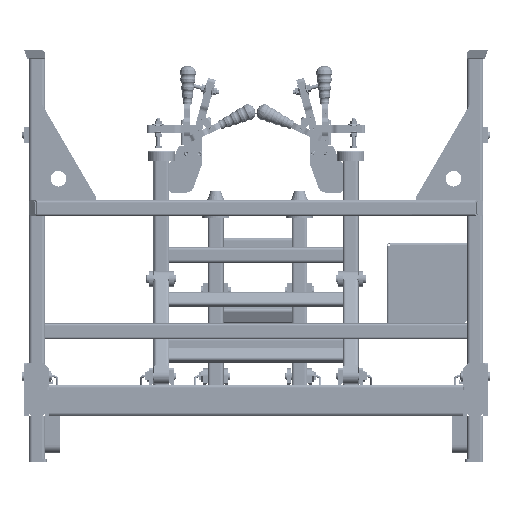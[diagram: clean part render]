
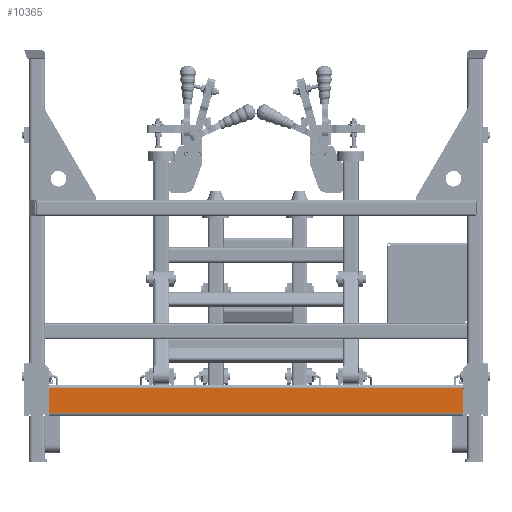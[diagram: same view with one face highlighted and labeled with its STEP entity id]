
A CAD part, front view. The second image highlights one B-rep face of the part: STEP entity #10365.
In plain terms, the highlighted planar face has unit normal (0, -1, 0) as drawn and (-1, 0, 0) by its records, which use the part's own axes.
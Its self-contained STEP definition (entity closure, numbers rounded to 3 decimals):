
#10365 = ADVANCED_FACE( '', ( #20944 ), #20945, .F. );
#20944 = FACE_OUTER_BOUND( '', #35922, .T. );
#20945 = PLANE( '', #35923 );
#35922 = EDGE_LOOP( '', ( #64651, #64652, #64653, #64654 ) );
#35923 = AXIS2_PLACEMENT_3D( '', #64655, #64656, #64657 );
#64651 = ORIENTED_EDGE( '', *, *, #91351, .T. );
#64652 = ORIENTED_EDGE( '', *, *, #86148, .F. );
#64653 = ORIENTED_EDGE( '', *, *, #91045, .F. );
#64654 = ORIENTED_EDGE( '', *, *, #84104, .T. );
#64655 = CARTESIAN_POINT( '', ( -20., 1056., -32. ) );
#64656 = DIRECTION( '', ( 1., 0., 0. ) );
#64657 = DIRECTION( '', ( 0., 0., -1. ) );
#84104 = EDGE_CURVE( '', #102637, #102635, #102638, .T. );
#86148 = EDGE_CURVE( '', #106052, #106047, #106054, .T. );
#91045 = EDGE_CURVE( '', #102637, #106052, #113018, .T. );
#91351 = EDGE_CURVE( '', #102635, #106047, #113392, .T. );
#102635 = VERTEX_POINT( '', #132534 );
#102637 = VERTEX_POINT( '', #132536 );
#102638 = LINE( '', #132537, #132538 );
#106047 = VERTEX_POINT( '', #138899 );
#106052 = VERTEX_POINT( '', #138905 );
#106054 = LINE( '', #138907, #138908 );
#113018 = LINE( '', #152910, #152911 );
#113392 = LINE( '', #153675, #153676 );
#132534 = CARTESIAN_POINT( '', ( -20., 0., -32. ) );
#132536 = CARTESIAN_POINT( '', ( -20., 1056., -32. ) );
#132537 = CARTESIAN_POINT( '', ( -20., 1056., -32. ) );
#132538 = VECTOR( '', #165703, 1000. );
#138899 = CARTESIAN_POINT( '', ( -20., 0., 32. ) );
#138905 = CARTESIAN_POINT( '', ( -20., 1056., 32. ) );
#138907 = CARTESIAN_POINT( '', ( -20., 1056., 32. ) );
#138908 = VECTOR( '', #168128, 1000. );
#152910 = CARTESIAN_POINT( '', ( -20., 1056., -32. ) );
#152911 = VECTOR( '', #173128, 1000. );
#153675 = CARTESIAN_POINT( '', ( -20., 0., -32. ) );
#153676 = VECTOR( '', #173424, 1000. );
#165703 = DIRECTION( '', ( 0., -1., 0. ) );
#168128 = DIRECTION( '', ( 0., -1., 0. ) );
#173128 = DIRECTION( '', ( 0., 0., 1. ) );
#173424 = DIRECTION( '', ( 0., 0., 1. ) );
